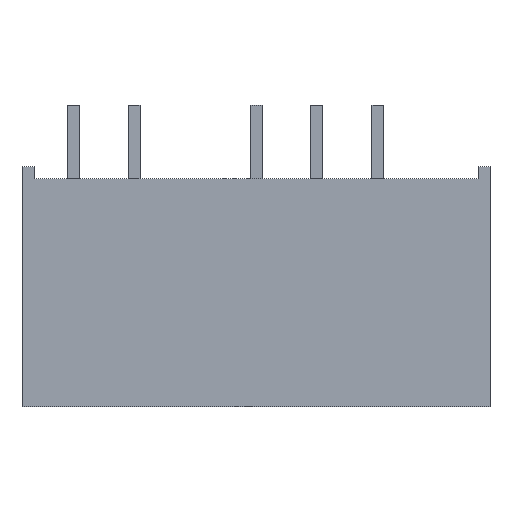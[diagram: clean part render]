
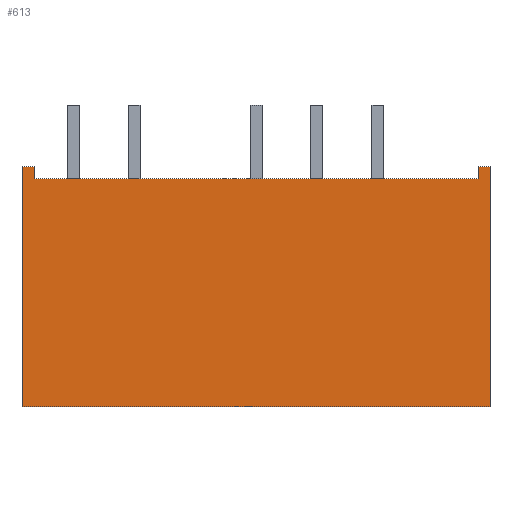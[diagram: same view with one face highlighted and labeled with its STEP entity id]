
A CAD part, front view. The second image highlights one B-rep face of the part: STEP entity #613.
In plain terms, the highlighted planar face has unit normal (0, -1, 0).
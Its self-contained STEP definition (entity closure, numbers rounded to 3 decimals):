
#52=ORIENTED_EDGE('',*,*,#219,.T.);
#53=ORIENTED_EDGE('',*,*,#188,.T.);
#54=ORIENTED_EDGE('',*,*,#220,.T.);
#55=ORIENTED_EDGE('',*,*,#221,.F.);
#56=ORIENTED_EDGE('',*,*,#222,.T.);
#57=ORIENTED_EDGE('',*,*,#223,.T.);
#58=ORIENTED_EDGE('',*,*,#224,.F.);
#59=ORIENTED_EDGE('',*,*,#225,.F.);
#188=EDGE_CURVE('',#272,#273,#328,.T.);
#219=EDGE_CURVE('',#302,#272,#359,.T.);
#220=EDGE_CURVE('',#273,#303,#360,.T.);
#221=EDGE_CURVE('',#304,#303,#361,.T.);
#222=EDGE_CURVE('',#304,#305,#362,.T.);
#223=EDGE_CURVE('',#305,#306,#363,.T.);
#224=EDGE_CURVE('',#307,#306,#364,.T.);
#225=EDGE_CURVE('',#302,#307,#365,.T.);
#272=VERTEX_POINT('',#853);
#273=VERTEX_POINT('',#854);
#302=VERTEX_POINT('',#916);
#303=VERTEX_POINT('',#918);
#304=VERTEX_POINT('',#920);
#305=VERTEX_POINT('',#922);
#306=VERTEX_POINT('',#924);
#307=VERTEX_POINT('',#926);
#328=LINE('',#852,#412);
#359=LINE('',#915,#443);
#360=LINE('',#917,#444);
#361=LINE('',#919,#445);
#362=LINE('',#921,#446);
#363=LINE('',#923,#447);
#364=LINE('',#925,#448);
#365=LINE('',#927,#449);
#412=VECTOR('',#698,1000.);
#443=VECTOR('',#733,1000.);
#444=VECTOR('',#734,1000.);
#445=VECTOR('',#735,1000.);
#446=VECTOR('',#736,1000.);
#447=VECTOR('',#737,1000.);
#448=VECTOR('',#738,1000.);
#449=VECTOR('',#739,1000.);
#503=EDGE_LOOP('',(#52,#53,#54,#55,#56,#57,#58,#59));
#543=FACE_BOUND('',#503,.T.);
#578=PLANE('',#661);
#613=ADVANCED_FACE('',(#543),#578,.F.);
#661=AXIS2_PLACEMENT_3D('',#914,#731,#732);
#698=DIRECTION('',(-1.,0.,0.));
#731=DIRECTION('',(0.,1.,0.));
#732=DIRECTION('',(0.,0.,1.));
#733=DIRECTION('',(0.,0.,-1.));
#734=DIRECTION('',(0.,0.,1.));
#735=DIRECTION('',(1.,0.,0.));
#736=DIRECTION('',(0.,0.,-1.));
#737=DIRECTION('',(1.,0.,0.));
#738=DIRECTION('',(0.,0.,-1.));
#739=DIRECTION('',(1.,0.,0.));
#852=CARTESIAN_POINT('',(19.,0.,9.5));
#853=CARTESIAN_POINT('',(19.,0.,9.5));
#854=CARTESIAN_POINT('',(0.5,0.,9.5));
#914=CARTESIAN_POINT('',(0.,0.,10.));
#915=CARTESIAN_POINT('',(19.,0.,10.));
#916=CARTESIAN_POINT('',(19.,0.,10.));
#917=CARTESIAN_POINT('',(0.5,0.,9.5));
#918=CARTESIAN_POINT('',(0.5,0.,10.));
#919=CARTESIAN_POINT('',(0.,0.,10.));
#920=CARTESIAN_POINT('',(0.,0.,10.));
#921=CARTESIAN_POINT('',(0.,0.,10.));
#922=CARTESIAN_POINT('',(0.,0.,0.));
#923=CARTESIAN_POINT('',(0.,0.,0.));
#924=CARTESIAN_POINT('',(19.5,0.,0.));
#925=CARTESIAN_POINT('',(19.5,0.,10.));
#926=CARTESIAN_POINT('',(19.5,0.,10.));
#927=CARTESIAN_POINT('',(0.,0.,10.));
